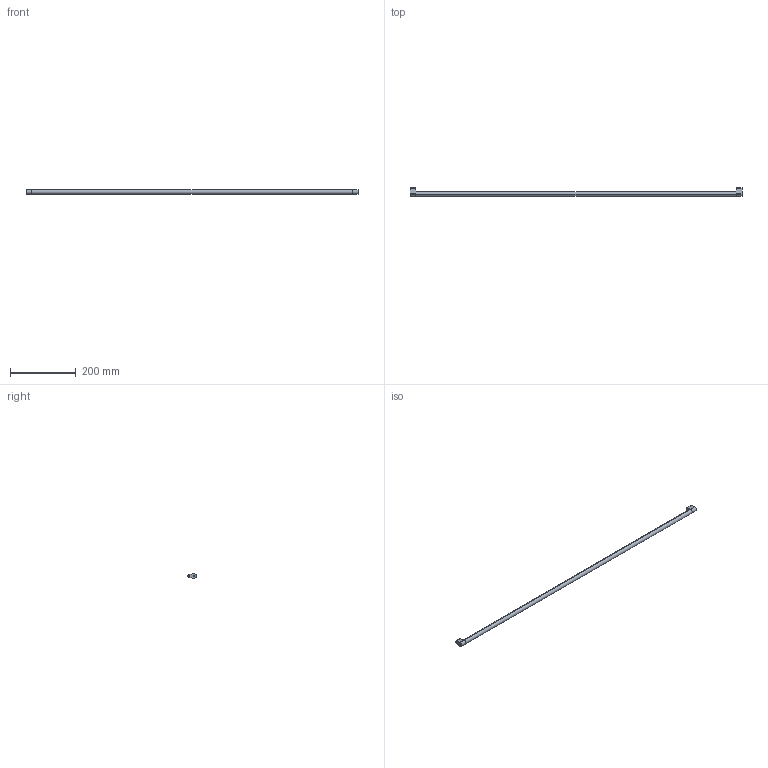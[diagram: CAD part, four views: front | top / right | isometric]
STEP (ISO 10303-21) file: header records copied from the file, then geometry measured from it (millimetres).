
FILE_DESCRIPTION (( 'STEP AP214' ), '1' );
FILE_NAME ('_Synchronisationseinheit Nova Pro KAB1100_S19.step', '2010-07-08T13:58:51', ( 'grass' ), ( '' ), 'SwSTEP 2.0', 'SolidWorks 2010', '' );
FILE_SCHEMA (( 'AUTOMOTIVE_DESIGN' ));
Length unit declared in the file: millimetre
Products named in the file (1): _Synchronisationseinheit Nova Pro KAB1100_S19
Bounding box: 1009 x 26.5 x 14 mm (x, y, z)
Volume: 159010.3 mm3; surface area: 47225.1 mm2
Topology: 3 solids, 3 shells, 36 faces, 78 edges, 52 vertices
Faces by surface type: cylinder 18, plane 18
Entity records: 1050 total; most frequent: DIRECTION 188, CARTESIAN_POINT 167, ORIENTED_EDGE 156, EDGE_CURVE 78, AXIS2_PLACEMENT_3D 73, VERTEX_POINT 52, VECTOR 42, LINE 42
